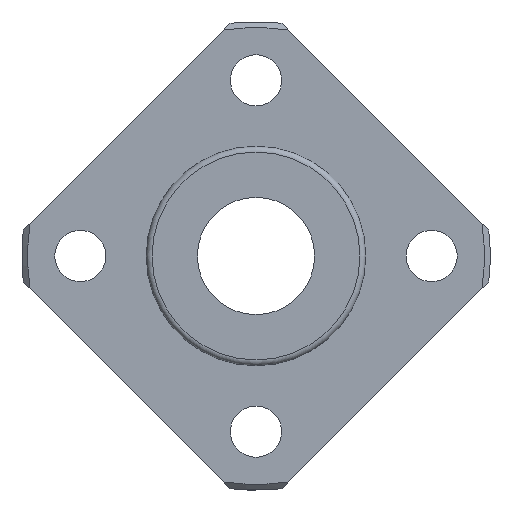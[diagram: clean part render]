
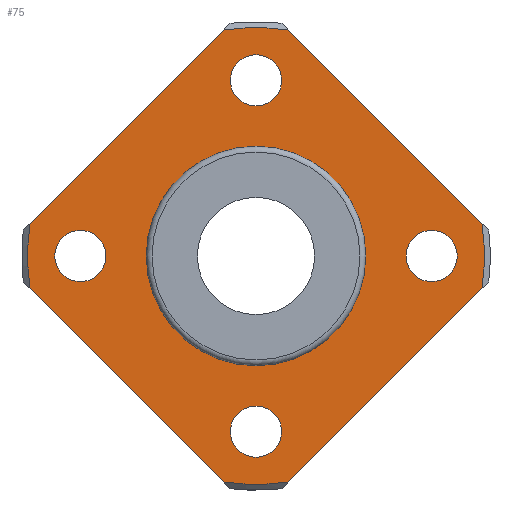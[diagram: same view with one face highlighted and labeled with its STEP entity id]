
A CAD part, left-side view. The second image highlights one B-rep face of the part: STEP entity #75.
In plain terms, the highlighted planar face has unit normal (-1, 0, 0).
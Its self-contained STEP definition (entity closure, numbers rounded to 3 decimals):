
#75=ADVANCED_FACE('',(#112,#113,#114,#115,#116,#117),#118,.T.);
#112=FACE_OUTER_BOUND('',#212,.T.);
#113=FACE_BOUND('',#213,.T.);
#114=FACE_BOUND('',#214,.T.);
#115=FACE_BOUND('',#215,.T.);
#116=FACE_BOUND('',#216,.T.);
#117=FACE_BOUND('',#217,.T.);
#118=PLANE('',#218);
#212=EDGE_LOOP('',(#312,#313,#314,#315,#316,#317,#318,#319));
#213=EDGE_LOOP('',(#320));
#214=EDGE_LOOP('',(#321));
#215=EDGE_LOOP('',(#322));
#216=EDGE_LOOP('',(#323));
#217=EDGE_LOOP('',(#324));
#218=AXIS2_PLACEMENT_3D('',#325,#326,#327);
#312=ORIENTED_EDGE('',*,*,#562,.T.);
#313=ORIENTED_EDGE('',*,*,#563,.T.);
#314=ORIENTED_EDGE('',*,*,#564,.T.);
#315=ORIENTED_EDGE('',*,*,#565,.T.);
#316=ORIENTED_EDGE('',*,*,#566,.T.);
#317=ORIENTED_EDGE('',*,*,#567,.T.);
#318=ORIENTED_EDGE('',*,*,#568,.T.);
#319=ORIENTED_EDGE('',*,*,#569,.T.);
#320=ORIENTED_EDGE('',*,*,#570,.F.);
#321=ORIENTED_EDGE('',*,*,#571,.T.);
#322=ORIENTED_EDGE('',*,*,#572,.T.);
#323=ORIENTED_EDGE('',*,*,#573,.T.);
#324=ORIENTED_EDGE('',*,*,#574,.T.);
#325=CARTESIAN_POINT('',(-5.0,0.,11.475));
#326=DIRECTION('',(-1.0,0.,0.));
#327=DIRECTION('',(0.,-1.0,0.));
#562=EDGE_CURVE('',#633,#634,#635,.T.);
#563=EDGE_CURVE('',#634,#636,#637,.T.);
#564=EDGE_CURVE('',#636,#638,#639,.T.);
#565=EDGE_CURVE('',#638,#640,#641,.T.);
#566=EDGE_CURVE('',#640,#642,#643,.T.);
#567=EDGE_CURVE('',#642,#644,#645,.T.);
#568=EDGE_CURVE('',#644,#646,#647,.T.);
#569=EDGE_CURVE('',#646,#633,#648,.T.);
#570=EDGE_CURVE('',#649,#649,#650,.T.);
#571=EDGE_CURVE('',#651,#651,#652,.T.);
#572=EDGE_CURVE('',#653,#653,#654,.T.);
#573=EDGE_CURVE('',#655,#655,#656,.T.);
#574=EDGE_CURVE('',#657,#657,#658,.T.);
#633=VERTEX_POINT('',#759);
#634=VERTEX_POINT('',#760);
#635=LINE('',#761,#762);
#636=VERTEX_POINT('',#763);
#637=CIRCLE('',#764,15.6);
#638=VERTEX_POINT('',#765);
#639=LINE('',#766,#767);
#640=VERTEX_POINT('',#768);
#641=CIRCLE('',#769,15.6);
#642=VERTEX_POINT('',#770);
#643=LINE('',#771,#772);
#644=VERTEX_POINT('',#773);
#645=CIRCLE('',#774,15.6);
#646=VERTEX_POINT('',#775);
#647=LINE('',#776,#777);
#648=CIRCLE('',#778,15.6);
#649=VERTEX_POINT('',#779);
#650=CIRCLE('',#780,7.35);
#651=VERTEX_POINT('',#781);
#652=CIRCLE('',#782,1.75);
#653=VERTEX_POINT('',#783);
#654=CIRCLE('',#784,1.75);
#655=VERTEX_POINT('',#785);
#656=CIRCLE('',#786,1.75);
#657=VERTEX_POINT('',#787);
#658=CIRCLE('',#788,1.75);
#759=CARTESIAN_POINT('',(-5.0,-2.239,-15.438));
#760=CARTESIAN_POINT('',(-5.0,-15.438,-2.239));
#761=CARTESIAN_POINT('',(-5.0,-8.176,-9.501));
#762=VECTOR('',#1045,1.0);
#763=CARTESIAN_POINT('',(-5.0,-15.438,2.239));
#764=AXIS2_PLACEMENT_3D('',#1046,#1047,#1048);
#765=CARTESIAN_POINT('',(-5.0,-2.239,15.438));
#766=CARTESIAN_POINT('',(-5.0,-9.501,8.176));
#767=VECTOR('',#1049,1.0);
#768=CARTESIAN_POINT('',(-5.0,2.239,15.438));
#769=AXIS2_PLACEMENT_3D('',#1050,#1051,#1052);
#770=CARTESIAN_POINT('',(-5.0,15.438,2.239));
#771=CARTESIAN_POINT('',(-5.0,2.439,15.239));
#772=VECTOR('',#1053,1.0);
#773=CARTESIAN_POINT('',(-5.0,15.438,-2.239));
#774=AXIS2_PLACEMENT_3D('',#1054,#1055,#1056);
#775=CARTESIAN_POINT('',(-5.0,2.239,-15.438));
#776=CARTESIAN_POINT('',(-5.0,15.239,-2.439));
#777=VECTOR('',#1057,1.0);
#778=AXIS2_PLACEMENT_3D('',#1058,#1059,#1060);
#779=CARTESIAN_POINT('',(-5.0,0.,7.35));
#780=AXIS2_PLACEMENT_3D('',#1061,#1062,#1063);
#781=CARTESIAN_POINT('',(-5.0,-1.75,12.0));
#782=AXIS2_PLACEMENT_3D('',#1064,#1065,#1066);
#783=CARTESIAN_POINT('',(-5.0,-1.75,-12.0));
#784=AXIS2_PLACEMENT_3D('',#1067,#1068,#1069);
#785=CARTESIAN_POINT('',(-5.0,10.25,0.));
#786=AXIS2_PLACEMENT_3D('',#1070,#1071,#1072);
#787=CARTESIAN_POINT('',(-5.0,-13.75,0.));
#788=AXIS2_PLACEMENT_3D('',#1073,#1074,#1075);
#1045=DIRECTION('',(0.,-0.707,0.707));
#1046=CARTESIAN_POINT('',(-5.0,0.,0.));
#1047=DIRECTION('',(-1.0,0.,0.));
#1048=DIRECTION('',(0.,0.0,1.0));
#1049=DIRECTION('',(0.,0.707,0.707));
#1050=CARTESIAN_POINT('',(-5.0,0.,0.));
#1051=DIRECTION('',(-1.0,0.,0.));
#1052=DIRECTION('',(0.,0.0,1.0));
#1053=DIRECTION('',(0.,0.707,-0.707));
#1054=CARTESIAN_POINT('',(-5.0,0.,0.));
#1055=DIRECTION('',(-1.0,0.,0.));
#1056=DIRECTION('',(0.,0.0,1.0));
#1057=DIRECTION('',(0.,-0.707,-0.707));
#1058=CARTESIAN_POINT('',(-5.0,0.,0.));
#1059=DIRECTION('',(-1.0,0.,0.));
#1060=DIRECTION('',(0.,0.0,1.0));
#1061=CARTESIAN_POINT('',(-5.0,0.,0.));
#1062=DIRECTION('',(-1.0,0.,0.));
#1063=DIRECTION('',(0.,0.0,1.0));
#1064=CARTESIAN_POINT('',(-5.0,0.,12.0));
#1065=DIRECTION('',(1.0,0.,0.));
#1066=DIRECTION('',(0.,1.0,0.));
#1067=CARTESIAN_POINT('',(-5.0,0.,-12.0));
#1068=DIRECTION('',(1.0,0.,0.));
#1069=DIRECTION('',(0.,1.0,0.));
#1070=CARTESIAN_POINT('',(-5.0,12.0,0.));
#1071=DIRECTION('',(1.0,0.,0.));
#1072=DIRECTION('',(0.,1.0,0.));
#1073=CARTESIAN_POINT('',(-5.0,-12.0,0.));
#1074=DIRECTION('',(1.0,0.,0.));
#1075=DIRECTION('',(0.,1.0,0.));
